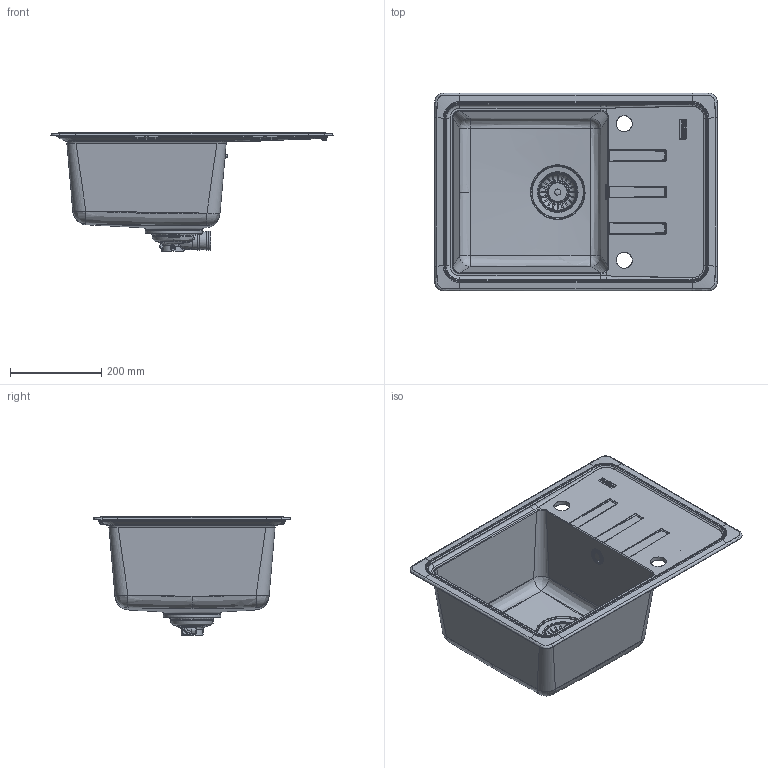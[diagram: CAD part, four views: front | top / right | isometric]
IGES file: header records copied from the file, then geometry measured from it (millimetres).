
Global section: file name: F:\_CONVERSIONE_CAD_2024_2025\_2024\03_3D kits new\Sinks\MALTA\114.0712.596 3D001_Sinks_Malta_BSG-611-62\3D001_Sinks_Malta_BSG-611-62.igs; native system: Rhinoceros ( May 17 2024 ); preprocessor: Trout Lake IGES 012 May 17 2024; date: 240711.081130; units: millimetre
Bounding box: 619.86 x 434.86 x 260.2 mm (x, y, z)
Surface area: 1026509.5 mm2 (no closed solid volume)
Topology: 0 solids, 0 shells, 1574 faces, 12888 edges, 12782 vertices
Faces by surface type: bspline 1574
